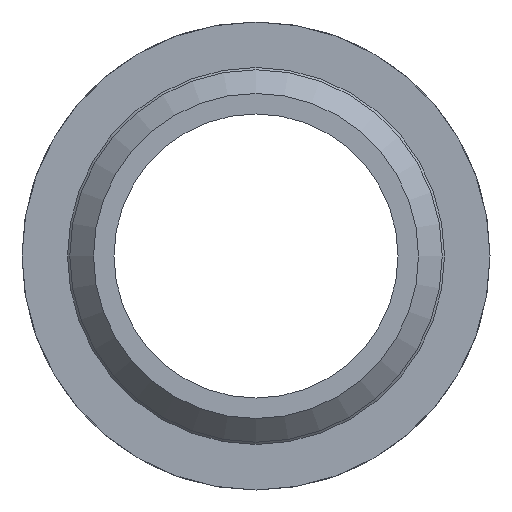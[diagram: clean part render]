
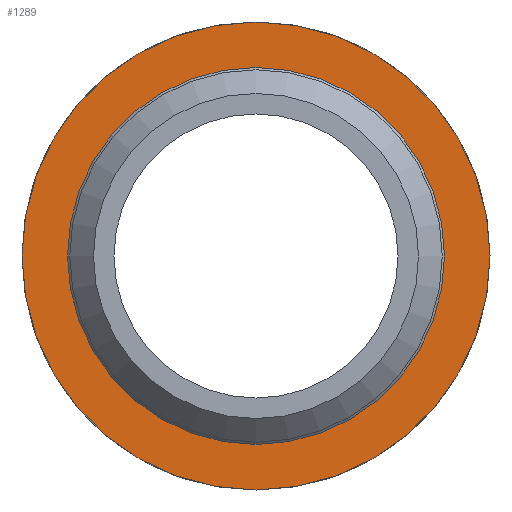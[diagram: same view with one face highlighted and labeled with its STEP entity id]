
A CAD part, left-side view. The second image highlights one B-rep face of the part: STEP entity #1289.
In plain terms, the highlighted planar face has unit normal (-1, 0, 0).
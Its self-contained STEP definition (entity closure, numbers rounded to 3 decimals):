
#199=CARTESIAN_POINT('',(-25.143,29.,0.));
#200=VERTEX_POINT('',#199);
#201=CARTESIAN_POINT('',(-25.143,0.,0.));
#202=DIRECTION('',(1.0,0.0,0.0));
#203=DIRECTION('',(0.0,1.0,0.0));
#204=AXIS2_PLACEMENT_3D('',#201,#202,#203);
#205=CIRCLE('',#204,29.);
#206=EDGE_CURVE('',#200,#200,#205,.T.);
#1270=CARTESIAN_POINT('',(-25.143,32.5,0.));
#1271=DIRECTION('',(-1.0,0.0,0.0));
#1272=DIRECTION('',(0.0,0.0,1.0));
#1273=AXIS2_PLACEMENT_3D('',#1270,#1271,#1272);
#1274=PLANE('',#1273);
#1275=CARTESIAN_POINT('',(-25.143,36.,0.));
#1276=VERTEX_POINT('',#1275);
#1277=CARTESIAN_POINT('',(-25.143,0.,0.));
#1278=DIRECTION('',(1.0,0.0,0.0));
#1279=DIRECTION('',(0.0,1.0,0.0));
#1280=AXIS2_PLACEMENT_3D('',#1277,#1278,#1279);
#1281=CIRCLE('',#1280,36.);
#1282=EDGE_CURVE('',#1276,#1276,#1281,.T.);
#1283=ORIENTED_EDGE('',*,*,#1282,.F.);
#1284=EDGE_LOOP('',(#1283));
#1285=FACE_OUTER_BOUND('',#1284,.T.);
#1286=ORIENTED_EDGE('',*,*,#206,.T.);
#1287=EDGE_LOOP('',(#1286));
#1288=FACE_BOUND('',#1287,.T.);
#1289=ADVANCED_FACE('',(#1285,#1288),#1274,.T.);
